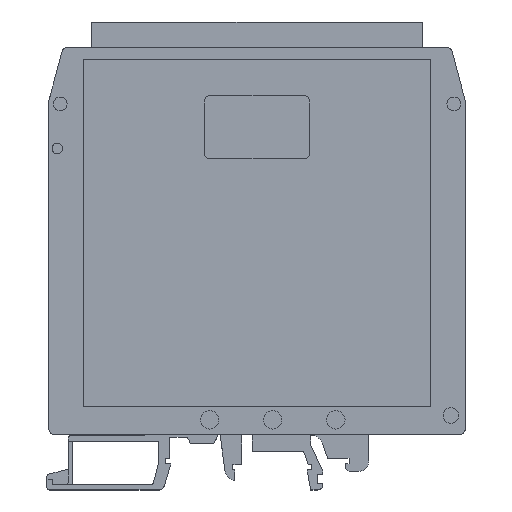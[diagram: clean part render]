
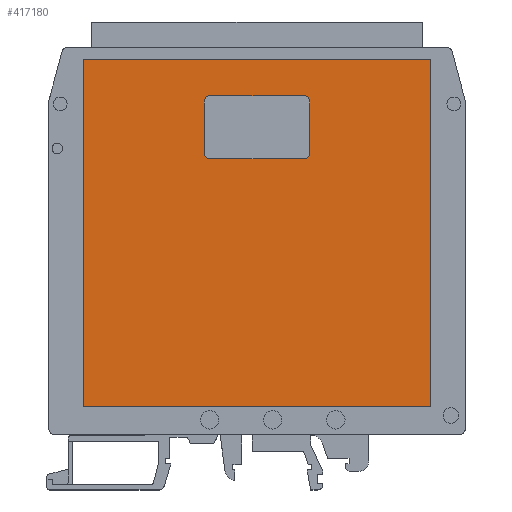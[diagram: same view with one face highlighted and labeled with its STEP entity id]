
A CAD part, top view. The second image highlights one B-rep face of the part: STEP entity #417180.
In plain terms, the highlighted planar face has unit normal (0, 0, 1) as drawn and (0, 0, -1) by its records, which use the part's own axes.
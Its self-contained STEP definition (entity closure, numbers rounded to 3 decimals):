
#416090=CARTESIAN_POINT('',(0.,0.,0.2));
#416100=DIRECTION('',(0.,0.,1.));
#416110=DIRECTION('',(1.,0.,0.));
#416120=AXIS2_PLACEMENT_3D('',#416090,#416100,#416110);
#416130=PLANE('',#416120);
#416140=CARTESIAN_POINT('',(122.254,71.3,0.2));
#416150=DIRECTION('',(-1.,0.,0.));
#416160=VECTOR('',#416150,1.);
#416170=LINE('',#416140,#416160);
#416180=CARTESIAN_POINT('',(122.254,71.3,0.2));
#416190=VERTEX_POINT('',#416180);
#416200=CARTESIAN_POINT('',(56.054,71.3,0.2));
#416210=VERTEX_POINT('',#416200);
#416220=EDGE_CURVE('',#416190,#416210,#416170,.T.);
#416230=ORIENTED_EDGE('',*,*,#416220,.F.);
#416240=CARTESIAN_POINT('',(56.054,71.3,0.2));
#416250=DIRECTION('',(0.,-1.,0.));
#416260=VECTOR('',#416250,1.);
#416270=LINE('',#416240,#416260);
#416280=CARTESIAN_POINT('',(56.054,5.4,0.2));
#416290=VERTEX_POINT('',#416280);
#416300=EDGE_CURVE('',#416210,#416290,#416270,.T.);
#416310=ORIENTED_EDGE('',*,*,#416300,.F.);
#416320=CARTESIAN_POINT('',(56.054,5.4,0.2));
#416330=DIRECTION('',(1.,0.,0.));
#416340=VECTOR('',#416330,1.);
#416350=LINE('',#416320,#416340);
#416360=CARTESIAN_POINT('',(122.254,5.4,0.2));
#416370=VERTEX_POINT('',#416360);
#416380=EDGE_CURVE('',#416290,#416370,#416350,.T.);
#416390=ORIENTED_EDGE('',*,*,#416380,.F.);
#416400=CARTESIAN_POINT('',(122.254,5.4,0.2));
#416410=DIRECTION('',(0.,1.,0.));
#416420=VECTOR('',#416410,1.);
#416430=LINE('',#416400,#416420);
#416440=EDGE_CURVE('',#416370,#416190,#416430,.T.);
#416450=ORIENTED_EDGE('',*,*,#416440,.F.);
#416460=EDGE_LOOP('',(#416450,#416390,#416310,#416230));
#416470=FACE_OUTER_BOUND('',#416460,.T.);
#416480=CARTESIAN_POINT('',(80.154,63.45,0.2));
#416490=DIRECTION('',(0.,0.,-1.));
#416500=DIRECTION('',(-1.,0.,0.));
#416510=AXIS2_PLACEMENT_3D('',#416480,#416490,#416500);
#416520=CIRCLE('',#416510,1.);
#416530=CARTESIAN_POINT('',(79.154,63.45,0.2));
#416540=VERTEX_POINT('',#416530);
#416550=CARTESIAN_POINT('',(80.154,64.45,0.2));
#416560=VERTEX_POINT('',#416550);
#416570=EDGE_CURVE('',#416540,#416560,#416520,.T.);
#416580=ORIENTED_EDGE('',*,*,#416570,.F.);
#416590=CARTESIAN_POINT('',(0.004,64.45,0.2));
#416600=DIRECTION('',(-1.,0.,0.));
#416610=VECTOR('',#416600,1.);
#416620=LINE('',#416590,#416610);
#416630=CARTESIAN_POINT('',(98.154,64.45,0.2));
#416640=VERTEX_POINT('',#416630);
#416650=EDGE_CURVE('',#416640,#416560,#416620,.T.);
#416660=ORIENTED_EDGE('',*,*,#416650,.T.);
#416670=CARTESIAN_POINT('',(98.154,63.45,0.2));
#416680=DIRECTION('',(0.,0.,-1.));
#416690=DIRECTION('',(-1.,0.,0.));
#416700=AXIS2_PLACEMENT_3D('',#416670,#416680,#416690);
#416710=CIRCLE('',#416700,1.);
#416720=CARTESIAN_POINT('',(99.154,63.45,0.2));
#416730=VERTEX_POINT('',#416720);
#416740=EDGE_CURVE('',#416640,#416730,#416710,.T.);
#416750=ORIENTED_EDGE('',*,*,#416740,.F.);
#416760=CARTESIAN_POINT('',(99.154,0.,0.2));
#416770=DIRECTION('',(0.,1.,0.));
#416780=VECTOR('',#416770,1.);
#416790=LINE('',#416760,#416780);
#416800=CARTESIAN_POINT('',(99.154,53.45,0.2));
#416810=VERTEX_POINT('',#416800);
#416820=EDGE_CURVE('',#416810,#416730,#416790,.T.);
#416830=ORIENTED_EDGE('',*,*,#416820,.T.);
#416840=CARTESIAN_POINT('',(98.154,53.45,0.2));
#416850=DIRECTION('',(0.,0.,-1.));
#416860=DIRECTION('',(-1.,0.,0.));
#416870=AXIS2_PLACEMENT_3D('',#416840,#416850,#416860);
#416880=CIRCLE('',#416870,1.);
#416890=CARTESIAN_POINT('',(98.154,52.45,0.2));
#416900=VERTEX_POINT('',#416890);
#416910=EDGE_CURVE('',#416810,#416900,#416880,.T.);
#416920=ORIENTED_EDGE('',*,*,#416910,.F.);
#416930=CARTESIAN_POINT('',(0.004,52.45,0.2));
#416940=DIRECTION('',(1.,0.,0.));
#416950=VECTOR('',#416940,1.);
#416960=LINE('',#416930,#416950);
#416970=CARTESIAN_POINT('',(80.154,52.45,0.2));
#416980=VERTEX_POINT('',#416970);
#416990=EDGE_CURVE('',#416980,#416900,#416960,.T.);
#417000=ORIENTED_EDGE('',*,*,#416990,.T.);
#417010=CARTESIAN_POINT('',(80.154,53.45,0.2));
#417020=DIRECTION('',(0.,0.,-1.));
#417030=DIRECTION('',(-1.,0.,0.));
#417040=AXIS2_PLACEMENT_3D('',#417010,#417020,#417030);
#417050=CIRCLE('',#417040,1.);
#417060=CARTESIAN_POINT('',(79.154,53.45,0.2));
#417070=VERTEX_POINT('',#417060);
#417080=EDGE_CURVE('',#416980,#417070,#417050,.T.);
#417090=ORIENTED_EDGE('',*,*,#417080,.F.);
#417100=CARTESIAN_POINT('',(79.154,0.,0.2));
#417110=DIRECTION('',(0.,-1.,0.));
#417120=VECTOR('',#417110,1.);
#417130=LINE('',#417100,#417120);
#417140=EDGE_CURVE('',#416540,#417070,#417130,.T.);
#417150=ORIENTED_EDGE('',*,*,#417140,.T.);
#417160=EDGE_LOOP('',(#417150,#417090,#417000,#416920,#416830,#416750,
#416660,#416580));
#417170=FACE_BOUND('',#417160,.T.);
#417180=ADVANCED_FACE('',(#416470,#417170),#416130,.F.);
